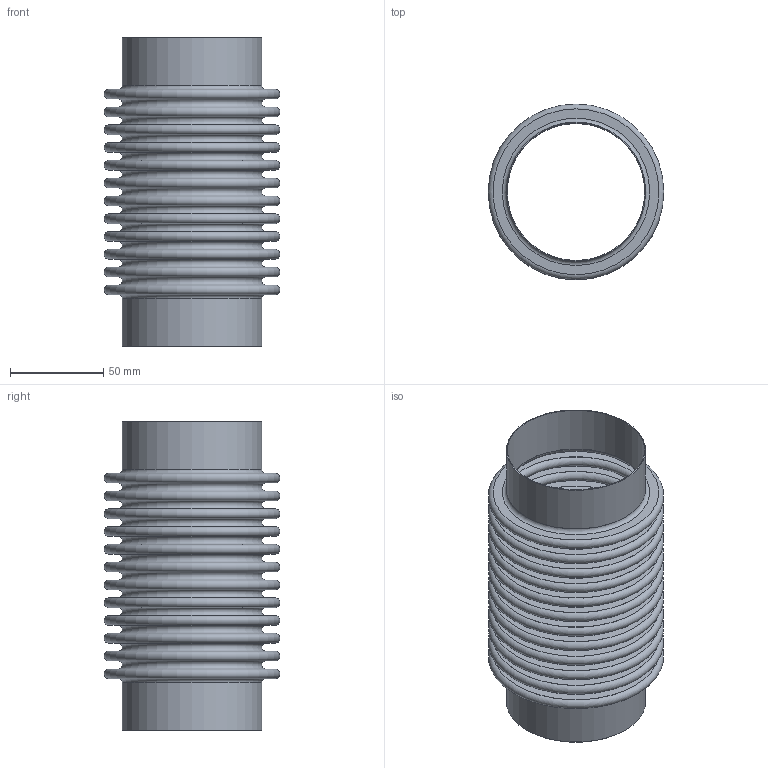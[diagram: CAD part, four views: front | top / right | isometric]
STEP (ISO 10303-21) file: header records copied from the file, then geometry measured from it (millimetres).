
FILE_DESCRIPTION(/* description */ (''),/* implementation_level */ '2;1');
FILE_NAME(/* name */ 'US-2.5-8-85L.stp',/* time_stamp */ '2026-07-21T11:00:20-05:00',/* author */ ('linda'),/* organization */ (''),/* preprocessor_version */ 'ST-DEVELOPER v20.1',/* originating_system */ 'Autodesk Inventor 2026',/* authorisation */ '');
FILE_SCHEMA (('AUTOMOTIVE_DESIGN { 1 0 10303 214 3 1 1 }'));
Length unit declared in the file: inch
Products named in the file (1): Part2
Bounding box: 93.98 x 93.98 x 165.1 mm (x, y, z)
Volume: 41298.5 mm3; surface area: 181297.1 mm2
Topology: 3 solids, 3 shells, 108 faces, 162 edges, 109 vertices
Faces by surface type: plane 54, torus 50, cylinder 4
Full cylindrical faces by diameter (mm): 73.66 x2, 74.574 x2
Entity records: 2667 total; most frequent: DIRECTION 538, CARTESIAN_POINT 380, ORIENTED_EDGE 324, AXIS2_PLACEMENT_3D 267, EDGE_LOOP 162, EDGE_CURVE 162, CIRCLE 158, STYLED_ITEM 111
